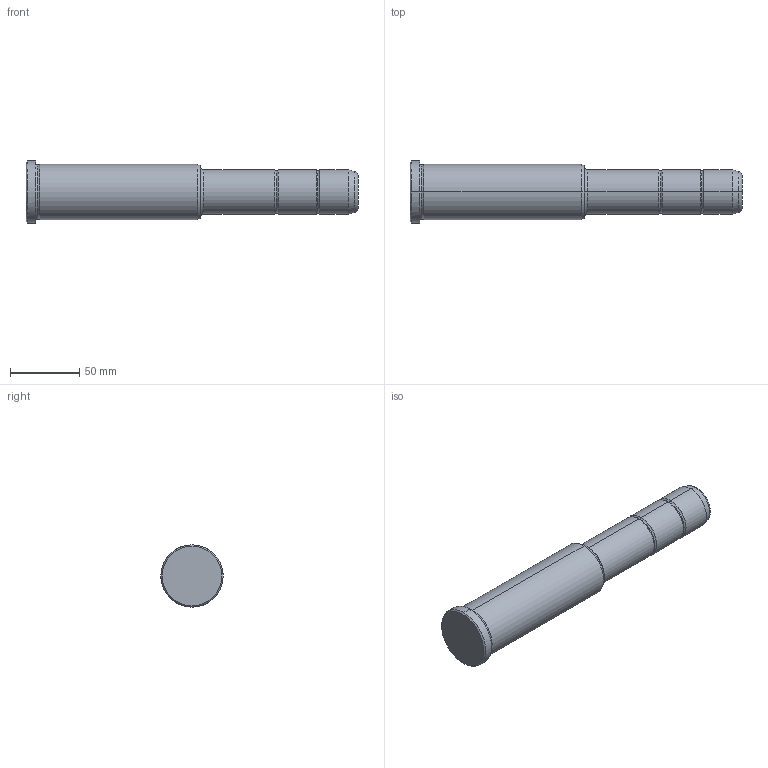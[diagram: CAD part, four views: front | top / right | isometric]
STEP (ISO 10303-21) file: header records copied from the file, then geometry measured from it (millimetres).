
FILE_DESCRIPTION(('CATIA V5 STEP Exchange'),'2;1');
FILE_NAME('C:\Users\Utente\Desktop\IO LAVORO\3D X SITO CF\X SITO\PLASTICA\351\351-32X126X240.stp','2021-09-15T12:25:22+00:00',('none'),('none'),'CATIA Version 5 Release 20 GA (IN-10)','CATIA V5 STEP AP203','none');
FILE_SCHEMA(('CONFIG_CONTROL_DESIGN'));
Length unit declared in the file: millimetre
Products named in the file (1): 351-32X126X240
Bounding box: 240 x 45 x 45 mm (x, y, z)
Volume: 251151.8 mm3; surface area: 30155.7 mm2
Topology: 1 solids, 1 shells, 36 faces, 102 edges, 70 vertices
Faces by surface type: torus 16, cylinder 10, cone 6, plane 4
Entity records: 1292 total; most frequent: CARTESIAN_POINT 321, ORIENTED_EDGE 204, DIRECTION 166, AXIS2_PLACEMENT_3D 115, EDGE_CURVE 102, CIRCLE 78, VERTEX_POINT 70, EDGE_LOOP 38
